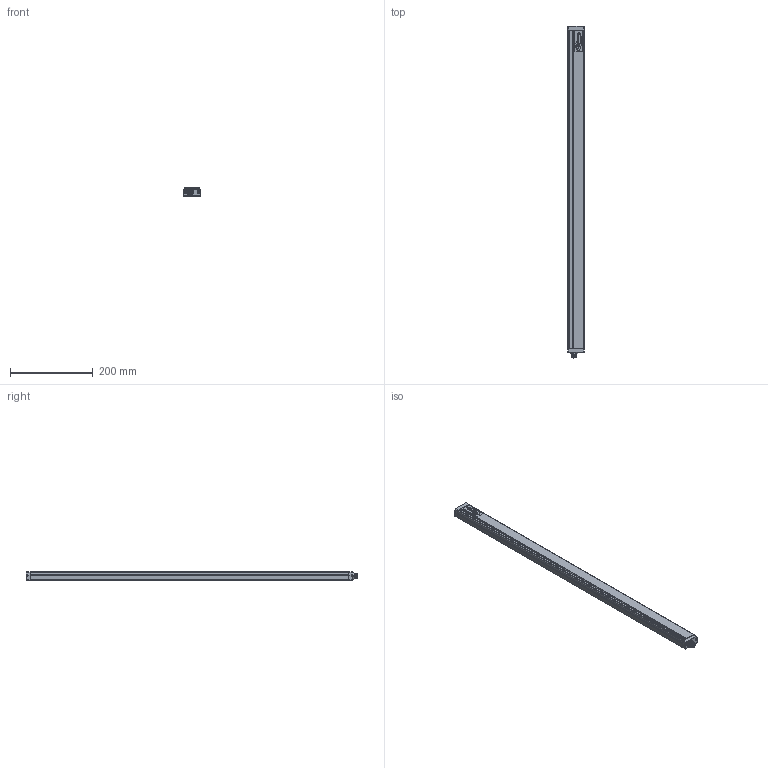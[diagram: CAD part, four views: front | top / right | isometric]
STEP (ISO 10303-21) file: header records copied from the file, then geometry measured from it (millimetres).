
FILE_DESCRIPTION(/* description */ (''),/* implementation_level */ '2;1');
FILE_NAME(/* name */ 'C:\Users\andre\SynologyDrive\Optoscan\Libreria Componenti\00 - Barriere\Polaris sorgente\Polaris_770_TX.stp',/* time_stamp */ '2021-06-04T10:57:30+02:00',/* author */ ('andre'),/* organization */ (''),/* preprocessor_version */ 'ST-DEVELOPER v18',/* originating_system */ 'Autodesk Inventor 2020',/* authorisation */ '');
FILE_SCHEMA (('AUTOMOTIVE_DESIGN { 1 0 10303 214 3 1 1 }'));
Length unit declared in the file: millimetre
Products named in the file (1): Polaris_770_TX
Bounding box: 40.5 x 800.8 x 20.75 mm (x, y, z)
Volume: 160710.2 mm3; surface area: 208985.7 mm2
Topology: 1 solids, 1 shells, 743 faces, 2072 edges, 1332 vertices
Faces by surface type: plane 332, cylinder 208, bspline 115, torus 74, cone 8, sphere 6
Full cylindrical faces by diameter (mm): 1 x8, 2.459 x4, 2.5 x4, 3 x4, 3.5 x4, 5.5 x4, 8 x1, 10.5 x2, 11.75 x9, 12 x1, 12.3 x3, 14.5 x1, 16.7 x1, 17.5 x1
Entity records: 30714 total; most frequent: CARTESIAN_POINT 11308, ORIENTED_EDGE 4130, DIRECTION 3590, EDGE_CURVE 2065, VERTEX_POINT 1333, AXIS2_PLACEMENT_3D 1263, LINE 1064, VECTOR 1064
